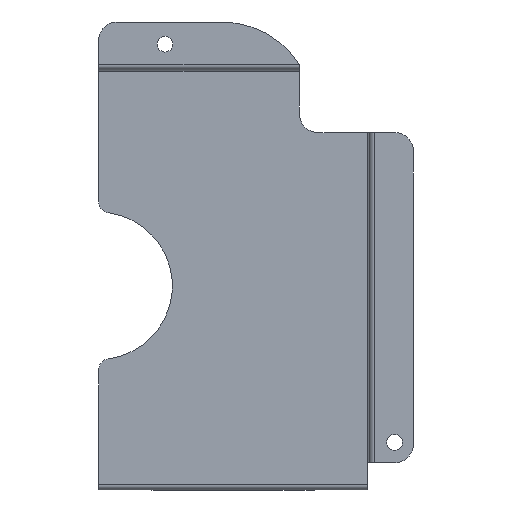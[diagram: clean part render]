
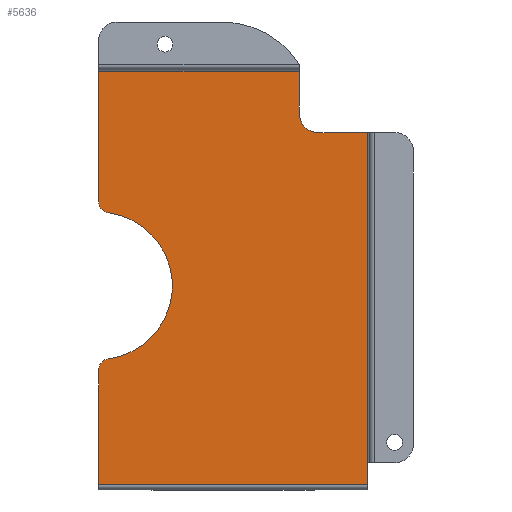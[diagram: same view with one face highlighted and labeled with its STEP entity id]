
A CAD part, front view. The second image highlights one B-rep face of the part: STEP entity #5636.
In plain terms, the highlighted planar face has unit normal (0, -1, 0).
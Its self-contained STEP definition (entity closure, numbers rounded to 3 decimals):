
#14 = AXIS2_PLACEMENT_3D ( 'NONE', #1517, #341, #870 ) ;
#123 = ORIENTED_EDGE ( 'NONE', *, *, #5321, .F. ) ;
#197 = CARTESIAN_POINT ( 'NONE',  ( 36.5, 27., -113.6 ) ) ;
#267 = CARTESIAN_POINT ( 'NONE',  ( -33.891, 27., -85.429 ) ) ;
#303 = EDGE_CURVE ( 'NONE', #5964, #3394, #3463, .T. ) ;
#307 = CARTESIAN_POINT ( 'NONE',  ( -36.5, 27., -65.6 ) ) ;
#341 = DIRECTION ( 'NONE',  ( 0., -1., 0. ) ) ;
#441 = ORIENTED_EDGE ( 'NONE', *, *, #3156, .F. ) ;
#528 = PLANE ( 'NONE',  #6363 ) ;
#556 = CARTESIAN_POINT ( 'NONE',  ( 0., 27., 0. ) ) ;
#612 = VECTOR ( 'NONE', #5016, 1000. ) ;
#633 = VECTOR ( 'NONE', #993, 1000. ) ;
#670 = CARTESIAN_POINT ( 'NONE',  ( -36.5, 27., -7.4 ) ) ;
#699 = CARTESIAN_POINT ( 'NONE',  ( 36.5, 27., -119.6 ) ) ;
#769 = CARTESIAN_POINT ( 'NONE',  ( 18., 27., -19. ) ) ;
#870 = DIRECTION ( 'NONE',  ( 0., 0., -1. ) ) ;
#990 = DIRECTION ( 'NONE',  ( 0., 0., -1. ) ) ;
#993 = DIRECTION ( 'NONE',  ( 0., 0., -1. ) ) ;
#998 = DIRECTION ( 'NONE',  ( 0., -1., 0. ) ) ;
#1056 = ORIENTED_EDGE ( 'NONE', *, *, #6540, .T. ) ;
#1117 = EDGE_CURVE ( 'NONE', #4602, #4684, #5599, .T. ) ;
#1142 = DIRECTION ( 'NONE',  ( 0., 0., -1. ) ) ;
#1165 = ORIENTED_EDGE ( 'NONE', *, *, #3442, .T. ) ;
#1235 = CARTESIAN_POINT ( 'NONE',  ( 36.5, 27., -120. ) ) ;
#1386 = VECTOR ( 'NONE', #6475, 1000. ) ;
#1490 = ORIENTED_EDGE ( 'NONE', *, *, #6263, .F. ) ;
#1517 = CARTESIAN_POINT ( 'NONE',  ( -33.5, 27., -42.796 ) ) ;
#1534 = EDGE_CURVE ( 'NONE', #4951, #3423, #4808, .T. ) ;
#1587 = DIRECTION ( 'NONE',  ( 0., 1., 0. ) ) ;
#1634 = VECTOR ( 'NONE', #3760, 1000. ) ;
#1710 = CARTESIAN_POINT ( 'NONE',  ( -36.5, 27., -7. ) ) ;
#1793 = CARTESIAN_POINT ( 'NONE',  ( -33.5, 27., -88.404 ) ) ;
#1984 = FACE_OUTER_BOUND ( 'NONE', #3717, .T. ) ;
#2117 = EDGE_CURVE ( 'NONE', #3815, #4684, #4990, .T. ) ;
#2282 = AXIS2_PLACEMENT_3D ( 'NONE', #307, #5954, #2364 ) ;
#2364 = DIRECTION ( 'NONE',  ( 0., 0., 1. ) ) ;
#2399 = VERTEX_POINT ( 'NONE', #5820 ) ;
#2462 = CARTESIAN_POINT ( 'NONE',  ( 18., 27., -7.4 ) ) ;
#2469 = LINE ( 'NONE', #3114, #5374 ) ;
#2689 = CARTESIAN_POINT ( 'NONE',  ( -36.5, 27., -88.404 ) ) ;
#2705 = ORIENTED_EDGE ( 'NONE', *, *, #2117, .F. ) ;
#2834 = EDGE_CURVE ( 'NONE', #2399, #4951, #4594, .T. ) ;
#2853 = ORIENTED_EDGE ( 'NONE', *, *, #5712, .F. ) ;
#2941 = VECTOR ( 'NONE', #5715, 1000. ) ;
#3051 = VECTOR ( 'NONE', #3454, 1000. ) ;
#3114 = CARTESIAN_POINT ( 'NONE',  ( -36.5, 27., -119.6 ) ) ;
#3156 = EDGE_CURVE ( 'NONE', #4550, #6638, #5135, .T. ) ;
#3337 = CARTESIAN_POINT ( 'NONE',  ( -36.5, 27., -7.4 ) ) ;
#3394 = VERTEX_POINT ( 'NONE', #769 ) ;
#3420 = CARTESIAN_POINT ( 'NONE',  ( -36.5, 27., -7. ) ) ;
#3423 = VERTEX_POINT ( 'NONE', #2462 ) ;
#3442 = EDGE_CURVE ( 'NONE', #5648, #4602, #3881, .T. ) ;
#3454 = DIRECTION ( 'NONE',  ( 0., 0., 1. ) ) ;
#3463 = CIRCLE ( 'NONE', #5042, 5. ) ;
#3529 = CARTESIAN_POINT ( 'NONE',  ( -36.5, 27., -119.6 ) ) ;
#3646 = ORIENTED_EDGE ( 'NONE', *, *, #303, .T. ) ;
#3717 = EDGE_LOOP ( 'NONE', ( #6621, #1056, #1165, #6572, #2705, #5098, #123, #441, #2853, #3646, #1490, #4245 ) ) ;
#3760 = DIRECTION ( 'NONE',  ( 1., 0., 0. ) ) ;
#3815 = VERTEX_POINT ( 'NONE', #3529 ) ;
#3845 = CARTESIAN_POINT ( 'NONE',  ( 0., 27., -24. ) ) ;
#3881 = CIRCLE ( 'NONE', #2282, 20. ) ;
#4245 = ORIENTED_EDGE ( 'NONE', *, *, #1534, .F. ) ;
#4536 = AXIS2_PLACEMENT_3D ( 'NONE', #1793, #5029, #1142 ) ;
#4550 = VERTEX_POINT ( 'NONE', #4788 ) ;
#4594 = LINE ( 'NONE', #3420, #3051 ) ;
#4602 = VERTEX_POINT ( 'NONE', #267 ) ;
#4679 = VECTOR ( 'NONE', #5688, 1000. ) ;
#4684 = VERTEX_POINT ( 'NONE', #2689 ) ;
#4788 = CARTESIAN_POINT ( 'NONE',  ( 36.5, 27., -24. ) ) ;
#4800 = CARTESIAN_POINT ( 'NONE',  ( 23., 27., -24. ) ) ;
#4808 = LINE ( 'NONE', #670, #612 ) ;
#4951 = VERTEX_POINT ( 'NONE', #3337 ) ;
#4990 = LINE ( 'NONE', #1710, #4679 ) ;
#5016 = DIRECTION ( 'NONE',  ( 1., 0., 0. ) ) ;
#5029 = DIRECTION ( 'NONE',  ( 0., -1., 0. ) ) ;
#5042 = AXIS2_PLACEMENT_3D ( 'NONE', #6418, #1587, #5223 ) ;
#5051 = CARTESIAN_POINT ( 'NONE',  ( 36.5, 27., -120. ) ) ;
#5098 = ORIENTED_EDGE ( 'NONE', *, *, #6575, .T. ) ;
#5135 = LINE ( 'NONE', #1235, #633 ) ;
#5223 = DIRECTION ( 'NONE',  ( 0., 0., -1. ) ) ;
#5321 = EDGE_CURVE ( 'NONE', #6638, #6438, #5676, .T. ) ;
#5366 = LINE ( 'NONE', #6442, #1386 ) ;
#5374 = VECTOR ( 'NONE', #6676, 1000. ) ;
#5599 = CIRCLE ( 'NONE', #4536, 3. ) ;
#5636 = ADVANCED_FACE ( 'NONE', ( #1984 ), #528, .T. ) ;
#5648 = VERTEX_POINT ( 'NONE', #6231 ) ;
#5676 = LINE ( 'NONE', #5051, #2941 ) ;
#5688 = DIRECTION ( 'NONE',  ( 0., 0., 1. ) ) ;
#5712 = EDGE_CURVE ( 'NONE', #5964, #4550, #5772, .T. ) ;
#5715 = DIRECTION ( 'NONE',  ( 0., 0., -1. ) ) ;
#5772 = LINE ( 'NONE', #3845, #1634 ) ;
#5820 = CARTESIAN_POINT ( 'NONE',  ( -36.5, 27., -42.796 ) ) ;
#5954 = DIRECTION ( 'NONE',  ( 0., 1., 0. ) ) ;
#5964 = VERTEX_POINT ( 'NONE', #4800 ) ;
#6231 = CARTESIAN_POINT ( 'NONE',  ( -33.891, 27., -45.771 ) ) ;
#6263 = EDGE_CURVE ( 'NONE', #3423, #3394, #5366, .T. ) ;
#6363 = AXIS2_PLACEMENT_3D ( 'NONE', #556, #998, #990 ) ;
#6418 = CARTESIAN_POINT ( 'NONE',  ( 23., 27., -19. ) ) ;
#6438 = VERTEX_POINT ( 'NONE', #699 ) ;
#6442 = CARTESIAN_POINT ( 'NONE',  ( 18., 27., 0. ) ) ;
#6475 = DIRECTION ( 'NONE',  ( 0., 0., -1. ) ) ;
#6540 = EDGE_CURVE ( 'NONE', #2399, #5648, #6749, .T. ) ;
#6572 = ORIENTED_EDGE ( 'NONE', *, *, #1117, .T. ) ;
#6575 = EDGE_CURVE ( 'NONE', #3815, #6438, #2469, .T. ) ;
#6621 = ORIENTED_EDGE ( 'NONE', *, *, #2834, .F. ) ;
#6638 = VERTEX_POINT ( 'NONE', #197 ) ;
#6676 = DIRECTION ( 'NONE',  ( 1., 0., 0. ) ) ;
#6749 = CIRCLE ( 'NONE', #14, 3. ) ;
